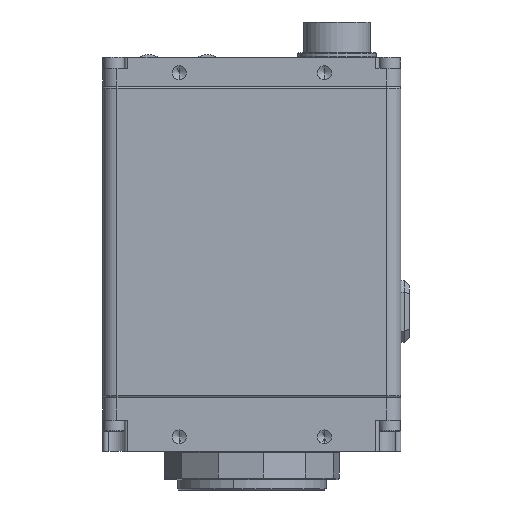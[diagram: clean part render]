
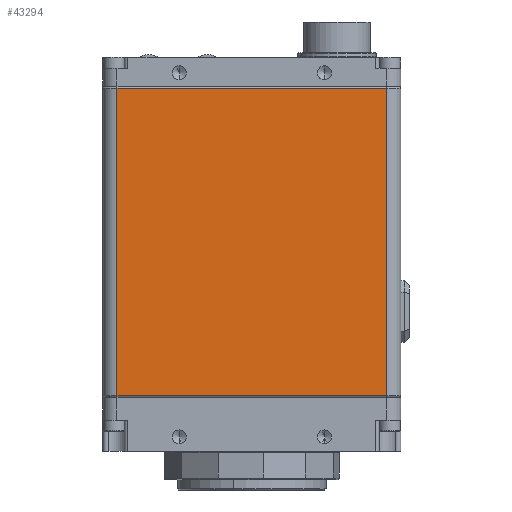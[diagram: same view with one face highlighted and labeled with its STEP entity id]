
A CAD part, front view. The second image highlights one B-rep face of the part: STEP entity #43294.
In plain terms, the highlighted planar face has unit normal (0, -1, 0).
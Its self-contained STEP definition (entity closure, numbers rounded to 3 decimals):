
#7970 = CARTESIAN_POINT ( 'NONE',  ( 24.13, -16.51, -44.701 ) ) ;
#9317 = CARTESIAN_POINT ( 'NONE',  ( 24.13, -16.51, -44.701 ) ) ;
#10465 = LINE ( 'NONE', #41379, #25273 ) ;
#11285 = VERTEX_POINT ( 'NONE', #24544 ) ;
#11770 = VERTEX_POINT ( 'NONE', #23398 ) ;
#15736 = CARTESIAN_POINT ( 'NONE',  ( 24.13, -16.51, 10.316 ) ) ;
#15995 = LINE ( 'NONE', #46339, #27126 ) ;
#17018 = EDGE_CURVE ( 'NONE', #11285, #11770, #20389, .T. ) ;
#17101 = EDGE_CURVE ( 'NONE', #11770, #22324, #49285, .T. ) ;
#20389 = LINE ( 'NONE', #35436, #27770 ) ;
#22324 = VERTEX_POINT ( 'NONE', #9317 ) ;
#23398 = CARTESIAN_POINT ( 'NONE',  ( -24.13, -16.51, -44.701 ) ) ;
#24544 = CARTESIAN_POINT ( 'NONE',  ( -24.13, -16.51, 10.316 ) ) ;
#25273 = VECTOR ( 'NONE', #25379, 1000. ) ;
#25379 = DIRECTION ( 'NONE',  ( -1., 0., 0. ) ) ;
#27126 = VECTOR ( 'NONE', #50273, 1000. ) ;
#27770 = VECTOR ( 'NONE', #35763, 1000. ) ;
#28299 = ORIENTED_EDGE ( 'NONE', *, *, #17101, .T. ) ;
#29776 = DIRECTION ( 'NONE',  ( 1., 0., 0. ) ) ;
#29972 = AXIS2_PLACEMENT_3D ( 'NONE', #49697, #37544, #29776 ) ;
#30182 = EDGE_CURVE ( 'NONE', #22324, #31766, #15995, .T. ) ;
#31766 = VERTEX_POINT ( 'NONE', #15736 ) ;
#32011 = FACE_OUTER_BOUND ( 'NONE', #37686, .T. ) ;
#35424 = ORIENTED_EDGE ( 'NONE', *, *, #30182, .T. ) ;
#35436 = CARTESIAN_POINT ( 'NONE',  ( -24.13, -16.51, -44.955 ) ) ;
#35605 = DIRECTION ( 'NONE',  ( 1., 0., 0. ) ) ;
#35763 = DIRECTION ( 'NONE',  ( 0., 0., -1. ) ) ;
#37544 = DIRECTION ( 'NONE',  ( 0., 1., 0. ) ) ;
#37686 = EDGE_LOOP ( 'NONE', ( #43210, #28299, #35424, #40283 ) ) ;
#38807 = EDGE_CURVE ( 'NONE', #31766, #11285, #10465, .T. ) ;
#40283 = ORIENTED_EDGE ( 'NONE', *, *, #38807, .T. ) ;
#41379 = CARTESIAN_POINT ( 'NONE',  ( -26.67, -16.51, 10.316 ) ) ;
#41807 = PLANE ( 'NONE',  #29972 ) ;
#43210 = ORIENTED_EDGE ( 'NONE', *, *, #17018, .T. ) ;
#43294 = ADVANCED_FACE ( 'NONE', ( #32011 ), #41807, .F. ) ;
#46339 = CARTESIAN_POINT ( 'NONE',  ( 24.13, -16.51, -44.955 ) ) ;
#47433 = VECTOR ( 'NONE', #35605, 1000. ) ;
#49285 = LINE ( 'NONE', #7970, #47433 ) ;
#49697 = CARTESIAN_POINT ( 'NONE',  ( -26.67, -16.51, -44.955 ) ) ;
#50273 = DIRECTION ( 'NONE',  ( 0., 0., 1. ) ) ;
